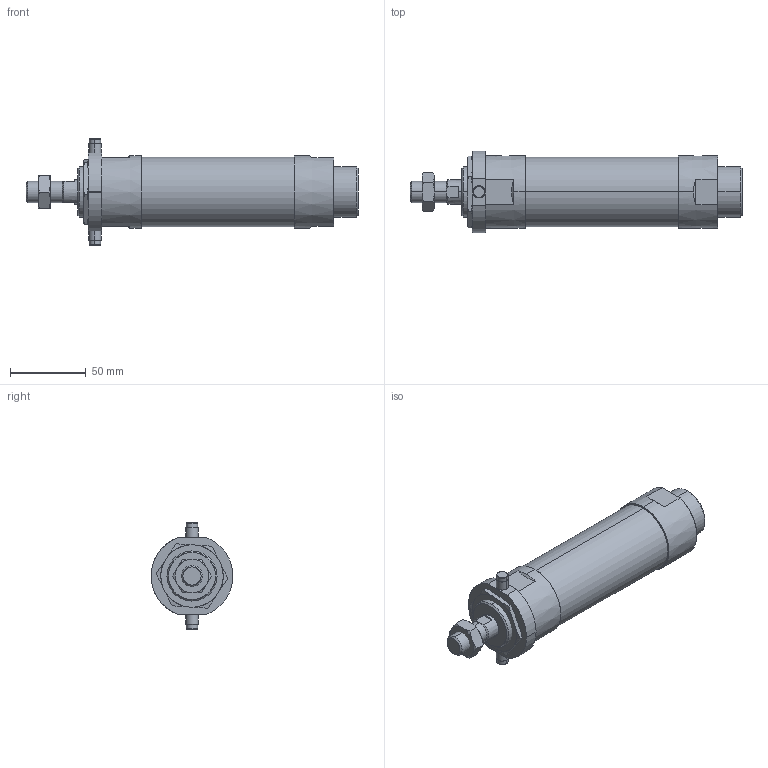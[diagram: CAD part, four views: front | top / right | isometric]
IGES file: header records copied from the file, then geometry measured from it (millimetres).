
Start section: SolidWorks IGES file using analytic representation for surfaces
Global section: file name: C:\Users\Toshiba\Desktop\J#2-40-50-T.IGS; native system: SolidWorks 2014; preprocessor: SolidWorks 2014; author: Toshiba; date: 160308.155445; units: millimetre
Bounding box: 219 x 54 x 70 mm (x, y, z)
Surface area: 41497.1 mm2 (no closed solid volume)
Topology: 0 solids, 0 shells, 121 faces, 2282 edges, 2278 vertices
Faces by surface type: bspline 63, revolution 58
